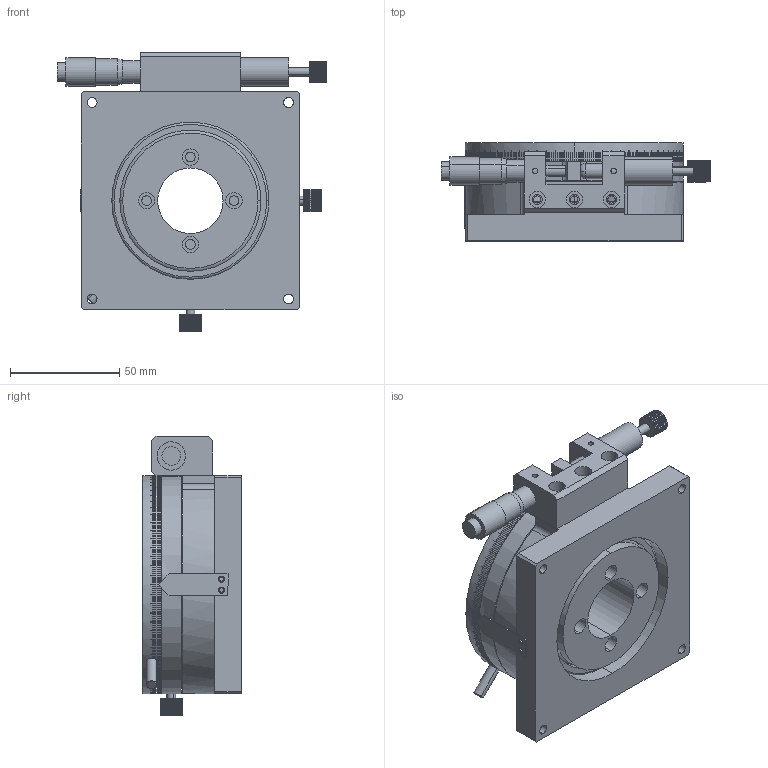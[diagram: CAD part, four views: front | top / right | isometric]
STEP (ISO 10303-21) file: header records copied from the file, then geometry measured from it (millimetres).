
FILE_DESCRIPTION (( 'STEP AP203' ), '1' );
FILE_NAME ('JCR-100L.STEP', '2015-04-15T05:48:08', ( '' ), ( '' ), 'SwSTEP 2.0', 'SolidWorks 2013', '' );
FILE_SCHEMA (( 'CONFIG_CONTROL_DESIGN' ));
Length unit declared in the file: millimetre
Products named in the file (1): JCR-100L
Bounding box: 123.5 x 45 x 128 mm (x, y, z)
Surface area: 71278.2 mm2 (no closed solid volume)
Topology: 0 solids, 18 shells, 587 faces, 4165 edges, 3231 vertices
Faces by surface type: plane 365, cylinder 212, torus 4, cone 4, sphere 2
Entity records: 39568 total; most frequent: CARTESIAN_POINT 8447, DIRECTION 6497, ORIENTED_EDGE 5759, EDGE_CURVE 4163, VERTEX_POINT 3231, LINE 2947, VECTOR 2947, AXIS2_PLACEMENT_3D 1775
